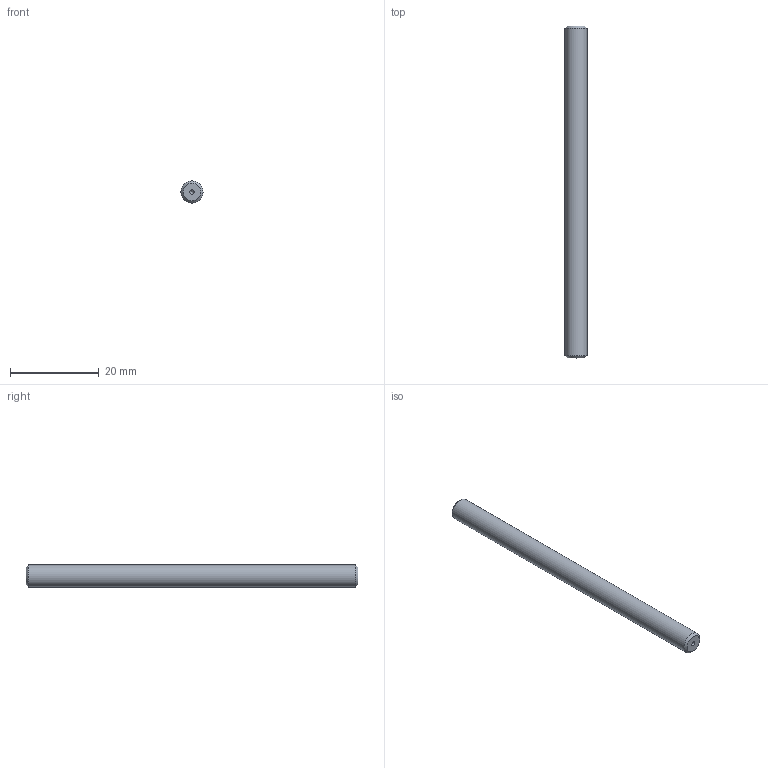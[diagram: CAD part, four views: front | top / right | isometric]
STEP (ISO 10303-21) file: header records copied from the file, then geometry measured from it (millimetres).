
FILE_DESCRIPTION(/* description */ ('STEP AP242 Edition 2','CAx-IF Rec.Pracs.---Representation and Presentation of Product Manufacturing Information (PMI)---4.0---2014-10-13','CAx-IF Rec.Pracs.---3D Tessellated Geometry---0.4---2014-09-14','2;1','CAx-IF Rec.Pracs.---User Defined Attributes---1.5---2016-08-15'),/* implementation_level */ '2;1');
FILE_NAME(/* name */ 'Assembly V2 - arbre 75x5 v1',/* time_stamp */ '2026-02-05T22:44:36Z',/* author */ (''),/* organization */ (''),/* preprocessor_version */ 'ST-DEVELOPER v20',/* originating_system */ 'ONSHAPE BY PTC INC, 1.210',/* authorisation */ ' ');
FILE_SCHEMA (('AP242_MANAGED_MODEL_BASED_3D_ENGINEERING_MIM_LF { 1 0 10303 442 3 1 4 }'));
Length unit declared in the file: metre
Products named in the file (1): arbre 75x5 v1
Bounding box: 5 x 75 x 5 mm (x, y, z)
Volume: 1468.2 mm3; surface area: 1210.9 mm2
Topology: 1 solids, 1 shells, 7 faces, 13 edges, 8 vertices
Faces by surface type: cone 4, plane 2, cylinder 1
Full cylindrical faces by diameter (mm): 5 x1
Entity records: 164 total; most frequent: DIRECTION 28, CARTESIAN_POINT 22, FACE_BOUND 14, AXIS2_PLACEMENT_3D 14, ORIENTED_EDGE 12, EDGE_LOOP 12, VERTEX_POINT 8, ADVANCED_FACE 7
